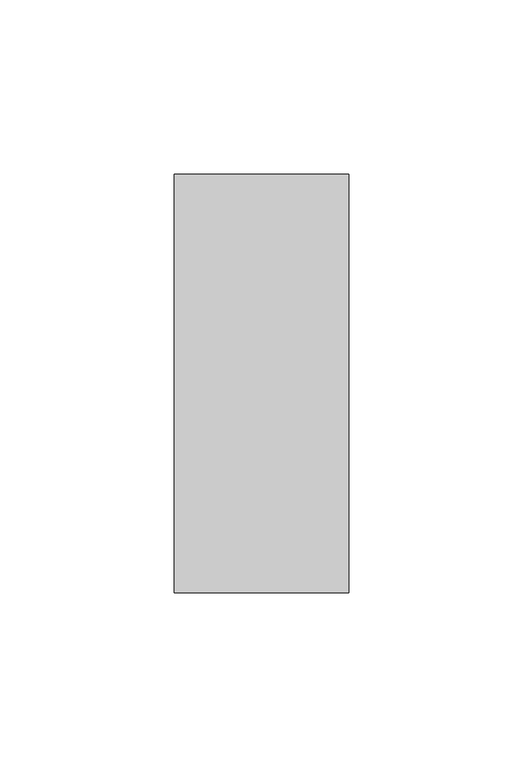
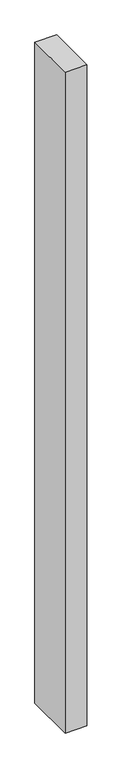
"""IFC4 building model written with IfcOpenShell, lengths in millimetres: member geometry, Прямоугольный импост : 50х120 мм."""

from ifc_helpers import new_model, si_unit, frame, origin, place, context, project, spatial, polyline, outline, extrude, source, transform, mapped, element, save


def member_2769d897(model_context):
    return source(origin(), model_context, "Body", "SweptSolid", [
        extrude(outline(polyline([(0.0, 60.0), (0.0, -60.0), (-50.0, -60.0), (-50.0, 60.0), (0.0, 60.0)])), frame((0.0, 0.0, -1600.0455365), z_axis=(0.0, 0.0, 1.0), x_axis=(1.0, 0.0, 0.0)), (0.0, 0.0, 1.0), 1600.0455365),
    ])


if __name__ == "__main__":
    model = new_model("IFC4")
    model_context = context("Model", 3, world=origin())
    ifc_project = project(units=[si_unit("LENGTHUNIT", "METRE", prefix="MILLI")], contexts=[model_context])
    site = spatial("IfcSite", under=ifc_project)
    building = spatial("IfcBuilding", under=site)
    placement = place(None, origin())
    member_shape = member_2769d897(model_context)
    element("IfcMember", 1, ObjectType="Прямоугольный импост : 50х120 мм", at=placement, inside=building, context=model_context, shape_type="MappedRepresentation", body=[
        mapped(member_shape, transform((0.0, 0.0, 0.0), x_axis=(1.0, 0.0, 0.0), y_axis=(0.0, 1.0, 0.0), z_axis=(0.0, 0.0, 1.0))),
    ])
    save(model, "model.ifc")
